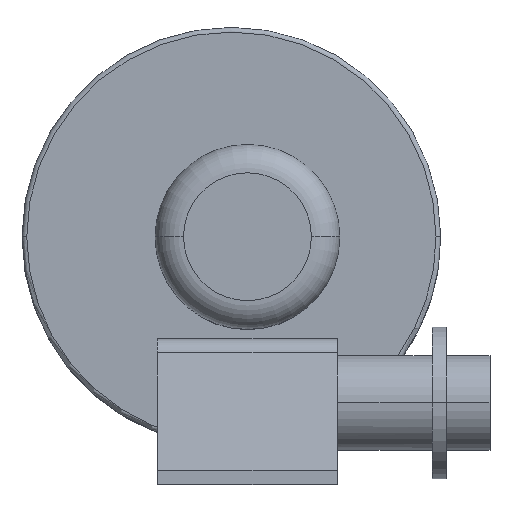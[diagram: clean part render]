
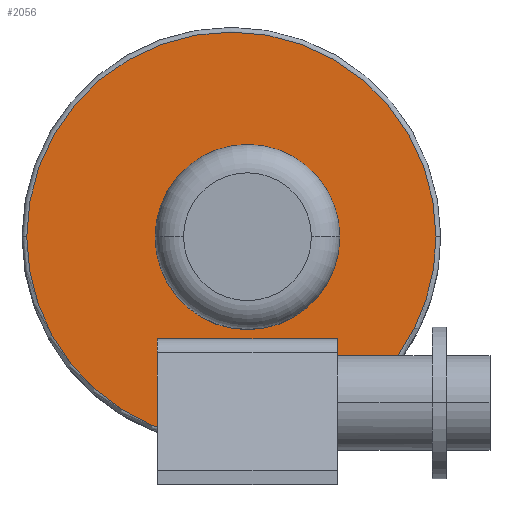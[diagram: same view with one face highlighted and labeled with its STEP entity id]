
A CAD part, top view. The second image highlights one B-rep face of the part: STEP entity #2056.
In plain terms, the highlighted planar face has unit normal (0, 0, 1).
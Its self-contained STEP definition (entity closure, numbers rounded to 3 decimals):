
#34 = CARTESIAN_POINT ( 'NONE',  ( 199.001, 0.654, 0. ) ) ;
#43 = VERTEX_POINT ( 'NONE', #2334 ) ;
#92 = PLANE ( 'NONE',  #1455 ) ;
#133 = DIRECTION ( 'NONE',  ( -1., 0., 0. ) ) ;
#144 = EDGE_CURVE ( 'NONE', #2403, #2203, #1119, .T. ) ;
#205 = LINE ( 'NONE', #1262, #739 ) ;
#243 = AXIS2_PLACEMENT_3D ( 'NONE', #2392, #1284, #133 ) ;
#275 = EDGE_LOOP ( 'NONE', ( #777, #662, #1274, #1959, #2295, #2230 ) ) ;
#286 = CARTESIAN_POINT ( 'NONE',  ( -17., 0.654, 0. ) ) ;
#360 = EDGE_CURVE ( 'NONE', #1646, #1089, #772, .T. ) ;
#371 = CARTESIAN_POINT ( 'NONE',  ( -17., 0.654, 0. ) ) ;
#492 = DIRECTION ( 'NONE',  ( -1., 0., 0. ) ) ;
#521 = CIRCLE ( 'NONE', #2084, 97.5 ) ;
#573 = DIRECTION ( 'NONE',  ( -1., 0., 0. ) ) ;
#594 = CARTESIAN_POINT ( 'NONE',  ( 195., -125., 0. ) ) ;
#662 = ORIENTED_EDGE ( 'NONE', *, *, #974, .T. ) ;
#723 = CARTESIAN_POINT ( 'NONE',  ( 0., 0., 0. ) ) ;
#736 = CIRCLE ( 'NONE', #1157, 216.001 ) ;
#739 = VECTOR ( 'NONE', #2375, 1000. ) ;
#751 = ORIENTED_EDGE ( 'NONE', *, *, #2141, .T. ) ;
#772 = CIRCLE ( 'NONE', #1470, 216.001 ) ;
#777 = ORIENTED_EDGE ( 'NONE', *, *, #2383, .F. ) ;
#794 = CARTESIAN_POINT ( 'NONE',  ( 0., -125., 0. ) ) ;
#797 = CARTESIAN_POINT ( 'NONE',  ( 0., 0., 0. ) ) ;
#814 = EDGE_LOOP ( 'NONE', ( #1918, #751 ) ) ;
#845 = VERTEX_POINT ( 'NONE', #2247 ) ;
#917 = DIRECTION ( 'NONE',  ( -1., 0., 0. ) ) ;
#934 = EDGE_CURVE ( 'NONE', #1625, #1329, #205, .T. ) ;
#940 = DIRECTION ( 'NONE',  ( -1., 0., 0. ) ) ;
#974 = EDGE_CURVE ( 'NONE', #43, #1646, #1601, .T. ) ;
#988 = DIRECTION ( 'NONE',  ( -1., 0., 0. ) ) ;
#1044 = CARTESIAN_POINT ( 'NONE',  ( -17., 0.654, 0. ) ) ;
#1089 = VERTEX_POINT ( 'NONE', #2096 ) ;
#1119 = CIRCLE ( 'NONE', #2142, 97.5 ) ;
#1154 = DIRECTION ( 'NONE',  ( -1., 0., 0. ) ) ;
#1157 = AXIS2_PLACEMENT_3D ( 'NONE', #371, #1704, #573 ) ;
#1230 = DIRECTION ( 'NONE',  ( -1., 0., 0. ) ) ;
#1262 = CARTESIAN_POINT ( 'NONE',  ( 0., 0.654, 0. ) ) ;
#1274 = ORIENTED_EDGE ( 'NONE', *, *, #360, .T. ) ;
#1284 = DIRECTION ( 'NONE',  ( 0., 0., 1. ) ) ;
#1290 = LINE ( 'NONE', #2050, #2329 ) ;
#1329 = VERTEX_POINT ( 'NONE', #2216 ) ;
#1421 = VECTOR ( 'NONE', #1154, 1000. ) ;
#1455 = AXIS2_PLACEMENT_3D ( 'NONE', #286, #1623, #492 ) ;
#1470 = AXIS2_PLACEMENT_3D ( 'NONE', #1044, #2344, #1230 ) ;
#1489 = LINE ( 'NONE', #594, #1421 ) ;
#1533 = CARTESIAN_POINT ( 'NONE',  ( -97.5, 0., 0. ) ) ;
#1601 = CIRCLE ( 'NONE', #243, 216.001 ) ;
#1623 = DIRECTION ( 'NONE',  ( 0., 0., -1. ) ) ;
#1625 = VERTEX_POINT ( 'NONE', #794 ) ;
#1636 = FACE_BOUND ( 'NONE', #814, .T. ) ;
#1646 = VERTEX_POINT ( 'NONE', #34 ) ;
#1704 = DIRECTION ( 'NONE',  ( 0., 0., 1. ) ) ;
#1918 = ORIENTED_EDGE ( 'NONE', *, *, #144, .T. ) ;
#1959 = ORIENTED_EDGE ( 'NONE', *, *, #2278, .T. ) ;
#2032 = DIRECTION ( 'NONE',  ( 0., 0., -1. ) ) ;
#2050 = CARTESIAN_POINT ( 'NONE',  ( 195., -127., 0. ) ) ;
#2056 = ADVANCED_FACE ( 'NONE', ( #1636, #2190 ), #92, .F. ) ;
#2084 = AXIS2_PLACEMENT_3D ( 'NONE', #723, #2032, #917 ) ;
#2096 = CARTESIAN_POINT ( 'NONE',  ( -233.001, 0.654, 0. ) ) ;
#2101 = DIRECTION ( 'NONE',  ( 0., 0., -1. ) ) ;
#2141 = EDGE_CURVE ( 'NONE', #2203, #2403, #521, .T. ) ;
#2142 = AXIS2_PLACEMENT_3D ( 'NONE', #797, #2101, #988 ) ;
#2190 = FACE_OUTER_BOUND ( 'NONE', #275, .T. ) ;
#2203 = VERTEX_POINT ( 'NONE', #2398 ) ;
#2216 = CARTESIAN_POINT ( 'NONE',  ( 0., -127., 0. ) ) ;
#2217 = EDGE_CURVE ( 'NONE', #845, #1329, #1290, .T. ) ;
#2230 = ORIENTED_EDGE ( 'NONE', *, *, #934, .F. ) ;
#2247 = CARTESIAN_POINT ( 'NONE',  ( 157.244, -127., 0. ) ) ;
#2278 = EDGE_CURVE ( 'NONE', #1089, #845, #736, .T. ) ;
#2295 = ORIENTED_EDGE ( 'NONE', *, *, #2217, .T. ) ;
#2329 = VECTOR ( 'NONE', #940, 1000. ) ;
#2334 = CARTESIAN_POINT ( 'NONE',  ( 158.692, -125., 0. ) ) ;
#2344 = DIRECTION ( 'NONE',  ( 0., 0., 1. ) ) ;
#2375 = DIRECTION ( 'NONE',  ( 0., -1., 0. ) ) ;
#2383 = EDGE_CURVE ( 'NONE', #43, #1625, #1489, .T. ) ;
#2392 = CARTESIAN_POINT ( 'NONE',  ( -17., 0.654, 0. ) ) ;
#2398 = CARTESIAN_POINT ( 'NONE',  ( 97.5, 0., 0. ) ) ;
#2403 = VERTEX_POINT ( 'NONE', #1533 ) ;
